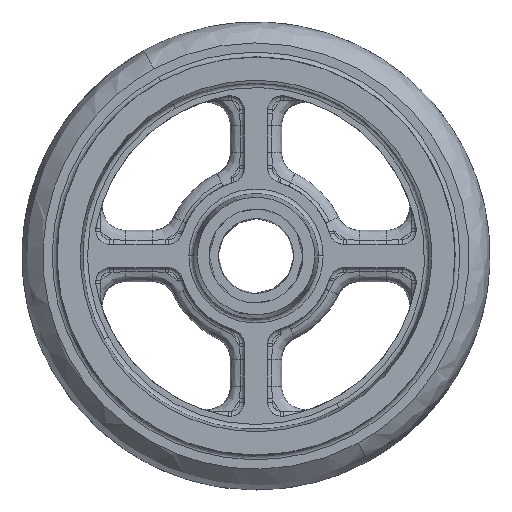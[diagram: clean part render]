
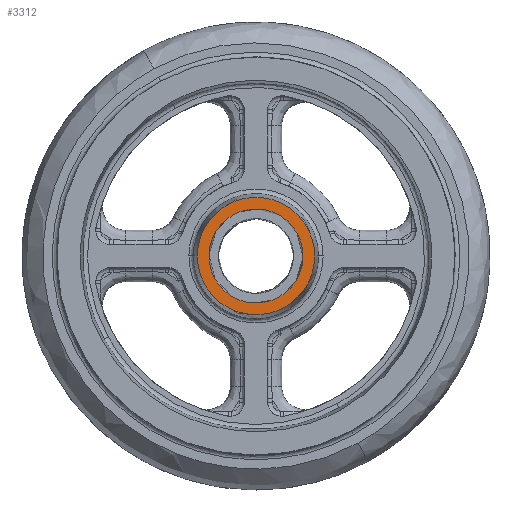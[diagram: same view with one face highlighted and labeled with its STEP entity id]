
A CAD part, left-side view. The second image highlights one B-rep face of the part: STEP entity #3312.
In plain terms, the highlighted planar face has unit normal (-1, 0, 0).
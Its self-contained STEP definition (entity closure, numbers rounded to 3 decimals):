
#3312 = ADVANCED_FACE ( 'NONE', ( #26544, #26566 ), #36421, .F. ) ;
#4204 = VERTEX_POINT ( 'NONE', #28254 ) ;
#4518 = VERTEX_POINT ( 'NONE', #28532 ) ;
#4525 = VERTEX_POINT ( 'NONE', #28538 ) ;
#4761 = VERTEX_POINT ( 'NONE', #28674 ) ;
#6038 = CARTESIAN_POINT ( 'NONE',  ( -30., 101.574, -152. ) ) ;
#6046 = CARTESIAN_POINT ( 'NONE',  ( -30., 101.574, -141.137 ) ) ;
#6048 = CARTESIAN_POINT ( 'NONE',  ( -30., 94.58, -131.51 ) ) ;
#6050 = CARTESIAN_POINT ( 'NONE',  ( -30., 84.248, -128.153 ) ) ;
#6052 = CARTESIAN_POINT ( 'NONE',  ( -30., 73.917, -124.796 ) ) ;
#6054 = CARTESIAN_POINT ( 'NONE',  ( -30., 62.599, -128.473 ) ) ;
#6056 = CARTESIAN_POINT ( 'NONE',  ( -30., 56.214, -137.262 ) ) ;
#6058 = CARTESIAN_POINT ( 'NONE',  ( -30., 53.022, -141.656 ) ) ;
#6060 = CARTESIAN_POINT ( 'NONE',  ( -30., 51.426, -146.828 ) ) ;
#6062 = CARTESIAN_POINT ( 'NONE',  ( -30., 51.426, -152. ) ) ;
#7143 = CARTESIAN_POINT ( 'NONE',  ( -30., 51.426, -152. ) ) ;
#7186 = CARTESIAN_POINT ( 'NONE',  ( -30., 86.124, -134.383 ) ) ;
#7188 = CARTESIAN_POINT ( 'NONE',  ( -30., 51.426, -157.172 ) ) ;
#7189 = CARTESIAN_POINT ( 'NONE',  ( -30., 53.022, -162.344 ) ) ;
#7190 = CARTESIAN_POINT ( 'NONE',  ( -30., 56.214, -166.738 ) ) ;
#7191 = CARTESIAN_POINT ( 'NONE',  ( -30., 62.599, -175.527 ) ) ;
#7192 = CARTESIAN_POINT ( 'NONE',  ( -30., 73.917, -179.204 ) ) ;
#7193 = CARTESIAN_POINT ( 'NONE',  ( -30., 84.248, -175.847 ) ) ;
#7194 = CARTESIAN_POINT ( 'NONE',  ( -30., 94.58, -172.49 ) ) ;
#7195 = CARTESIAN_POINT ( 'NONE',  ( -30., 101.574, -162.863 ) ) ;
#7196 = CARTESIAN_POINT ( 'NONE',  ( -30., 101.574, -152. ) ) ;
#7197 = CARTESIAN_POINT ( 'NONE',  ( -30., 66.876, -169.617 ) ) ;
#7198 = CARTESIAN_POINT ( 'NONE',  ( -30., 89.217, -136.072 ) ) ;
#7199 = CARTESIAN_POINT ( 'NONE',  ( -30., 91.81, -138.546 ) ) ;
#7200 = CARTESIAN_POINT ( 'NONE',  ( -30., 93.643, -141.555 ) ) ;
#7201 = CARTESIAN_POINT ( 'NONE',  ( -30., 95.477, -144.565 ) ) ;
#7202 = CARTESIAN_POINT ( 'NONE',  ( -30., 96.486, -148.003 ) ) ;
#7203 = CARTESIAN_POINT ( 'NONE',  ( -30., 96.569, -151.526 ) ) ;
#7204 = CARTESIAN_POINT ( 'NONE',  ( -30., 96.652, -155.049 ) ) ;
#7205 = CARTESIAN_POINT ( 'NONE',  ( -30., 95.806, -158.532 ) ) ;
#7206 = CARTESIAN_POINT ( 'NONE',  ( -30., 94.117, -161.624 ) ) ;
#7207 = CARTESIAN_POINT ( 'NONE',  ( -30., 92.428, -164.717 ) ) ;
#7208 = CARTESIAN_POINT ( 'NONE',  ( -30., 89.954, -167.31 ) ) ;
#7209 = CARTESIAN_POINT ( 'NONE',  ( -30., 86.945, -169.143 ) ) ;
#7210 = CARTESIAN_POINT ( 'NONE',  ( -30., 83.935, -170.977 ) ) ;
#7211 = CARTESIAN_POINT ( 'NONE',  ( -30., 80.497, -171.986 ) ) ;
#7212 = CARTESIAN_POINT ( 'NONE',  ( -30., 76.974, -172.069 ) ) ;
#7213 = CARTESIAN_POINT ( 'NONE',  ( -30., 73.451, -172.152 ) ) ;
#7214 = CARTESIAN_POINT ( 'NONE',  ( -30., 69.968, -171.306 ) ) ;
#7215 = CARTESIAN_POINT ( 'NONE',  ( -30., 66.876, -169.617 ) ) ;
#7217 = CARTESIAN_POINT ( 'NONE',  ( -30., 63.783, -167.928 ) ) ;
#7218 = CARTESIAN_POINT ( 'NONE',  ( -30., 61.19, -165.454 ) ) ;
#7219 = CARTESIAN_POINT ( 'NONE',  ( -30., 59.357, -162.445 ) ) ;
#7220 = CARTESIAN_POINT ( 'NONE',  ( -30., 57.523, -159.435 ) ) ;
#7221 = CARTESIAN_POINT ( 'NONE',  ( -30., 56.514, -155.997 ) ) ;
#7222 = CARTESIAN_POINT ( 'NONE',  ( -30., 56.431, -152.474 ) ) ;
#7223 = CARTESIAN_POINT ( 'NONE',  ( -30., 56.348, -148.951 ) ) ;
#7224 = CARTESIAN_POINT ( 'NONE',  ( -30., 57.194, -145.468 ) ) ;
#7225 = CARTESIAN_POINT ( 'NONE',  ( -30., 58.883, -142.376 ) ) ;
#7226 = CARTESIAN_POINT ( 'NONE',  ( -30., 60.572, -139.283 ) ) ;
#7227 = CARTESIAN_POINT ( 'NONE',  ( -30., 63.046, -136.69 ) ) ;
#7228 = CARTESIAN_POINT ( 'NONE',  ( -30., 66.055, -134.857 ) ) ;
#7229 = CARTESIAN_POINT ( 'NONE',  ( -30., 69.065, -133.023 ) ) ;
#7230 = CARTESIAN_POINT ( 'NONE',  ( -30., 72.503, -132.014 ) ) ;
#7231 = CARTESIAN_POINT ( 'NONE',  ( -30., 76.026, -131.931 ) ) ;
#7232 = CARTESIAN_POINT ( 'NONE',  ( -30., 79.549, -131.848 ) ) ;
#7233 = CARTESIAN_POINT ( 'NONE',  ( -30., 83.032, -132.694 ) ) ;
#7234 = CARTESIAN_POINT ( 'NONE',  ( -30., 86.124, -134.383 ) ) ;
#8331 = AXIS2_PLACEMENT_3D ( 'NONE', #36420, #36422, #36423 ) ;
#19464 = EDGE_CURVE ( 'NONE', #4525, #4518, #22020, .T. ) ;
#19539 = EDGE_CURVE ( 'NONE', #4518, #4525, #22185, .T. ) ;
#19540 = EDGE_CURVE ( 'NONE', #4204, #4761, #22186, .T. ) ;
#19541 = EDGE_CURVE ( 'NONE', #4761, #4204, #22187, .T. ) ;
#21541 = ORIENTED_EDGE ( 'NONE', *, *, #19539, .F. ) ;
#21552 = ORIENTED_EDGE ( 'NONE', *, *, #19464, .F. ) ;
#21558 = ORIENTED_EDGE ( 'NONE', *, *, #19541, .F. ) ;
#21569 = ORIENTED_EDGE ( 'NONE', *, *, #19540, .F. ) ;
#22020 = B_SPLINE_CURVE_WITH_KNOTS ( 'NONE', 3,
 ( #6038, #6046, #6048, #6050, #6052, #6054, #6056, #6058, #6060, #6062 ),
 .UNSPECIFIED., .F., .F.,
 ( 4, 3, 3, 4 ),
 ( 0.018, 0.049, 0.081, 0.096 ),
 .UNSPECIFIED. ) ;
#22185 = B_SPLINE_CURVE_WITH_KNOTS ( 'NONE', 3,
 ( #7143, #7188, #7189, #7190, #7191, #7192, #7193, #7194, #7195, #7196 ),
 .UNSPECIFIED., .F., .F.,
 ( 4, 3, 3, 4 ),
 ( -0.06, -0.045, -0.013, 0.018 ),
 .UNSPECIFIED. ) ;
#22186 = B_SPLINE_CURVE_WITH_KNOTS ( 'NONE', 3,
 ( #7186, #7198, #7199, #7200, #7201, #7202, #7203, #7204, #7205, #7206, #7207, #7208, #7209, #7210, #7211, #7212, #7213, #7214, #7215 ),
 .UNSPECIFIED., .F., .F.,
 ( 4, 3, 3, 3, 3, 3, 4 ),
 ( -0.026, -0.016, -0.005, 0.005, 0.016, 0.026, 0.037 ),
 .UNSPECIFIED. ) ;
#22187 = B_SPLINE_CURVE_WITH_KNOTS ( 'NONE', 3,
 ( #7197, #7217, #7218, #7219, #7220, #7221, #7222, #7223, #7224, #7225, #7226, #7227, #7228, #7229, #7230, #7231, #7232, #7233, #7234 ),
 .UNSPECIFIED., .F., .F.,
 ( 4, 3, 3, 3, 3, 3, 4 ),
 ( -0.026, -0.016, -0.005, 0.005, 0.016, 0.026, 0.037 ),
 .UNSPECIFIED. ) ;
#24046 = EDGE_LOOP ( 'NONE', ( #21569, #21558 ) ) ;
#24416 = EDGE_LOOP ( 'NONE', ( #21552, #21541 ) ) ;
#26544 = FACE_BOUND ( 'NONE', #24046, .T. ) ;
#26566 = FACE_OUTER_BOUND ( 'NONE', #24416, .T. ) ;
#28254 = CARTESIAN_POINT ( 'NONE',  ( -30., 86.124, -134.383 ) ) ;
#28532 = CARTESIAN_POINT ( 'NONE',  ( -30., 51.426, -152. ) ) ;
#28538 = CARTESIAN_POINT ( 'NONE',  ( -30., 101.574, -152. ) ) ;
#28674 = CARTESIAN_POINT ( 'NONE',  ( -30., 66.876, -169.617 ) ) ;
#36420 = CARTESIAN_POINT ( 'NONE',  ( -30., 46.411, -182.089 ) ) ;
#36421 = PLANE ( 'NONE',  #8331 ) ;
#36422 = DIRECTION ( 'NONE',  ( 1., 0., 0. ) ) ;
#36423 = DIRECTION ( 'NONE',  ( 0., 1., 0. ) ) ;
